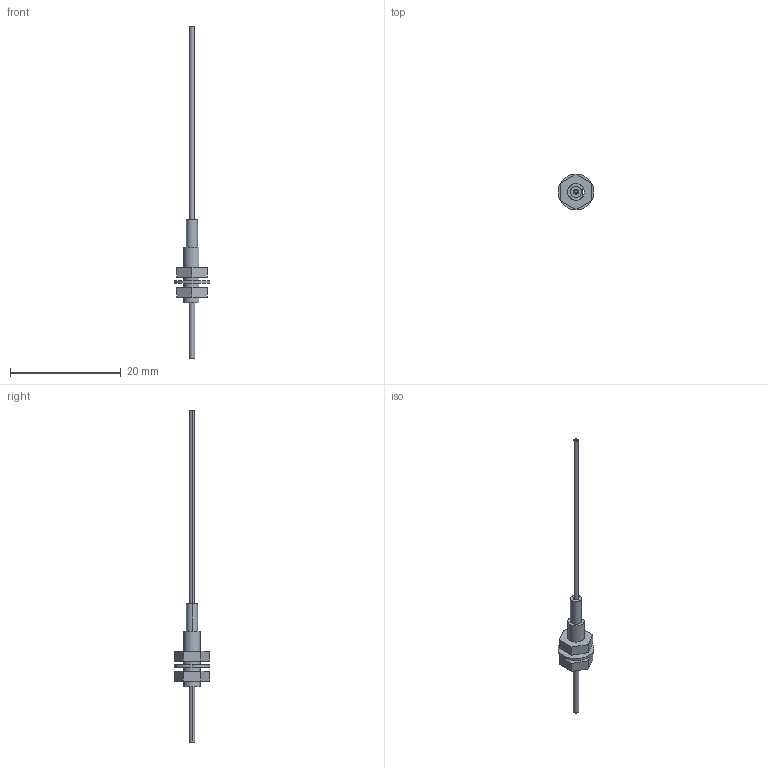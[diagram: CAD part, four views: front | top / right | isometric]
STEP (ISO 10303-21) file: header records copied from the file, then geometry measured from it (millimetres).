
FILE_DESCRIPTION (( 'STEP AP203' ), '1' );
FILE_NAME ('FT-NFM2S4.STEP', '2005-09-08T02:16:54', ( '' ), ( '' ), 'SwSTEP 2.0', 'SolidWorks 2004073', '' );
FILE_SCHEMA (( 'CONFIG_CONTROL_DESIGN' ));
Length unit declared in the file: millimetre
Products named in the file (1): FT-NFM2S4
Bounding box: 6.5 x 6.5 x 60 mm (x, y, z)
Volume: 193.8 mm3; surface area: 512.3 mm2
Topology: 4 solids, 4 shells, 42 faces, 90 edges, 60 vertices
Faces by surface type: plane 25, cylinder 17
Entity records: 1231 total; most frequent: DIRECTION 210, CARTESIAN_POINT 193, ORIENTED_EDGE 180, EDGE_CURVE 90, AXIS2_PLACEMENT_3D 77, VERTEX_POINT 60, LINE 56, VECTOR 56
